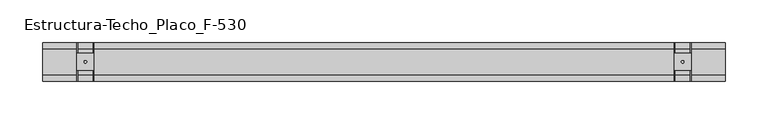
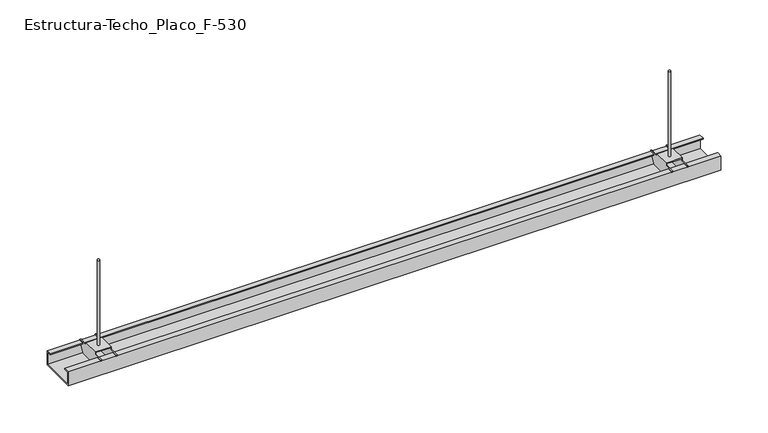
"""IFC4 building model written with IfcOpenShell, lengths in millimetres: proxy geometry, Estructura-Techo_Placo_F-530 : Perfil Primario."""

from ifc_helpers import new_model, si_unit, point, frame, frame_2d, origin, place, context, project, spatial, polyline, circle_curve, trimmed, segment, composite_curve, outline, extrude, faceted_brep, source, transform, mapped, element, save


def estructura_techo_placo_f_530_ab943d43(model_context):
    return source(origin(), model_context, "Body", "SolidModel", [
        extrude(outline(composite_curve([segment(trimmed(circle_curve(frame_2d((750.0, 0.0)), 1.5), [point((748.5, 0.0))], [point((751.5, 0.0))], False, "CARTESIAN"), True, "CONTINUOUS"), segment(trimmed(circle_curve(frame_2d((750.0, 0.0)), 1.5), [point((751.5, 0.0))], [point((748.5, 0.0))], False, "CARTESIAN"), True, "CONTINUOUS")], self_intersect=False)), frame((0.0, 0.0, 40.0), z_axis=(0.0, 0.0, 1.0), x_axis=(1.0, 0.0, 0.0)), (0.0, 0.0, 1.0), 110.0),
        faceted_brep([(760.0, 10.0, 37.0), (760.0, 10.0, 40.0), (760.0, -10.0, 40.0), (760.0, -10.0, 37.0), (760.0, -22.5, 37.0), (760.0, -22.5, 36.0), (760.0, -14.9944465, 23.0), (760.0, 14.9944465, 23.0), (760.0, 22.5, 36.0), (760.0, 22.5, 37.0), (740.0, 10.0, 37.0), (740.0, 22.5, 37.0), (740.0, 22.5, 36.0), (740.0, 14.9944465, 23.0), (740.0, -14.9944465, 23.0), (740.0, -22.5, 36.0), (740.0, -22.5, 37.0), (740.0, -10.0, 37.0), (740.0, -10.0, 40.0), (740.0, 10.0, 40.0), (759.0, 10.0, 37.0), (759.0, 10.0, 39.0), (741.0, 10.0, 39.0), (741.0, 10.0, 37.0), (741.0, -10.0, 37.0), (741.0, -10.0, 39.0), (759.0, -10.0, 39.0), (759.0, -10.0, 37.0), (759.0, -22.5, 37.0), (741.0, -22.5, 37.0), (759.0, -22.5, 36.0), (741.0, -22.5, 36.0), (759.0, -14.9944465, 23.0), (741.0, -14.9944465, 23.0), (759.0, 14.9944465, 23.0), (741.0, 14.9944465, 23.0), (759.0, 22.5, 36.0), (741.0, 22.5, 36.0), (759.0, 22.5, 37.0), (741.0, 22.5, 37.0)], [[[0, 1, 2, 3, 4, 5, 6, 7, 8, 9]], [[10, 11, 12, 13, 14, 15, 16, 17, 18, 19]], [[1, 0, 20, 21, 22, 23, 10, 19]], [[2, 1, 19, 18]], [[3, 2, 18, 17, 24, 25, 26, 27]], [[4, 3, 27, 28]], [[17, 16, 29, 24]], [[5, 4, 28, 30]], [[16, 15, 31, 29]], [[6, 5, 30, 32]], [[15, 14, 33, 31]], [[7, 6, 32, 34]], [[14, 13, 35, 33]], [[8, 7, 34, 36]], [[13, 12, 37, 35]], [[9, 8, 36, 38]], [[12, 11, 39, 37]], [[0, 9, 38, 20]], [[11, 10, 23, 39]], [[21, 26, 25, 22]], [[22, 25, 24, 29, 31, 33, 35, 37, 39, 23]], [[26, 21, 20, 38, 36, 34, 32, 30, 28, 27]]]),
        extrude(outline(composite_curve([segment(trimmed(circle_curve(frame_2d((50.0, 0.0)), 1.5), [point((48.5, 0.0))], [point((51.5, 0.0))], False, "CARTESIAN"), True, "CONTINUOUS"), segment(trimmed(circle_curve(frame_2d((50.0, 0.0)), 1.5), [point((51.5, 0.0))], [point((48.5, 0.0))], False, "CARTESIAN"), True, "CONTINUOUS")], self_intersect=False)), frame((0.0, 0.0, 40.0), z_axis=(0.0, 0.0, 1.0), x_axis=(1.0, 0.0, 0.0)), (0.0, 0.0, 1.0), 110.0),
        faceted_brep([(60.0, 10.0, 37.0), (60.0, 10.0, 40.0), (60.0, -10.0, 40.0), (60.0, -10.0, 37.0), (60.0, -22.5, 37.0), (60.0, -22.5, 36.0), (60.0, -14.9944465, 23.0), (60.0, 14.9944465, 23.0), (60.0, 22.5, 36.0), (60.0, 22.5, 37.0), (40.0, 10.0, 37.0), (40.0, 22.5, 37.0), (40.0, 22.5, 36.0), (40.0, 14.9944465, 23.0), (40.0, -14.9944465, 23.0), (40.0, -22.5, 36.0), (40.0, -22.5, 37.0), (40.0, -10.0, 37.0), (40.0, -10.0, 40.0), (40.0, 10.0, 40.0), (59.0, 10.0, 37.0), (59.0, 10.0, 39.0), (41.0, 10.0, 39.0), (41.0, 10.0, 37.0), (41.0, -10.0, 37.0), (41.0, -10.0, 39.0), (59.0, -10.0, 39.0), (59.0, -10.0, 37.0), (59.0, -22.5, 37.0), (41.0, -22.5, 37.0), (59.0, -22.5, 36.0), (41.0, -22.5, 36.0), (59.0, -14.9944465, 23.0), (41.0, -14.9944465, 23.0), (59.0, 14.9944465, 23.0), (41.0, 14.9944465, 23.0), (59.0, 22.5, 36.0), (41.0, 22.5, 36.0), (59.0, 22.5, 37.0), (41.0, 22.5, 37.0)], [[[0, 1, 2, 3, 4, 5, 6, 7, 8, 9]], [[10, 11, 12, 13, 14, 15, 16, 17, 18, 19]], [[1, 0, 20, 21, 22, 23, 10, 19]], [[2, 1, 19, 18]], [[3, 2, 18, 17, 24, 25, 26, 27]], [[4, 3, 27, 28]], [[17, 16, 29, 24]], [[5, 4, 28, 30]], [[16, 15, 31, 29]], [[6, 5, 30, 32]], [[15, 14, 33, 31]], [[7, 6, 32, 34]], [[14, 13, 35, 33]], [[8, 7, 34, 36]], [[13, 12, 37, 35]], [[9, 8, 36, 38]], [[12, 11, 39, 37]], [[0, 9, 38, 20]], [[11, 10, 23, 39]], [[21, 26, 25, 22]], [[22, 25, 24, 29, 31, 33, 35, 37, 39, 23]], [[26, 21, 20, 38, 36, 34, 32, 30, 28, 27]]]),
        extrude(outline(polyline([(15.5, 36.0), (22.5, 36.0), (22.5, 18.0), (-22.5, 18.0), (-22.5, 36.0), (-15.5, 36.0), (-15.5, 35.0), (-21.5, 35.0), (-21.5, 19.0), (21.5, 19.0), (21.5, 35.0), (15.5, 35.0), (15.5, 36.0)])), frame((0.0, 0.0, 0.0), z_axis=(1.0, 0.0, 0.0), x_axis=(0.0, 1.0, 0.0)), (0.0, 0.0, 1.0), 800.0),
    ])


if __name__ == "__main__":
    model = new_model("IFC4")
    model_context = context("Model", 3, world=origin())
    ifc_project = project(units=[si_unit("LENGTHUNIT", "METRE", prefix="MILLI")], contexts=[model_context])
    site = spatial("IfcSite", under=ifc_project)
    building = spatial("IfcBuilding", under=site)
    placement = place(None, origin())
    estructura_techo_placo_f_530_shape = estructura_techo_placo_f_530_ab943d43(model_context)
    element("IfcBuildingElementProxy", 1, Name="Estructura-Techo_Placo_F-530 : Perfil Primario", ObjectType="Estructura-Techo_Placo_F-530 : Perfil Primario", at=placement, inside=building, context=model_context, shape_type="MappedRepresentation", body=[
        mapped(estructura_techo_placo_f_530_shape, transform((0.0, 0.0, 0.0), x_axis=(1.0, 0.0, 0.0), y_axis=(0.0, 1.0, 0.0), z_axis=(0.0, 0.0, 1.0))),
    ])
    save(model, "model.ifc")
